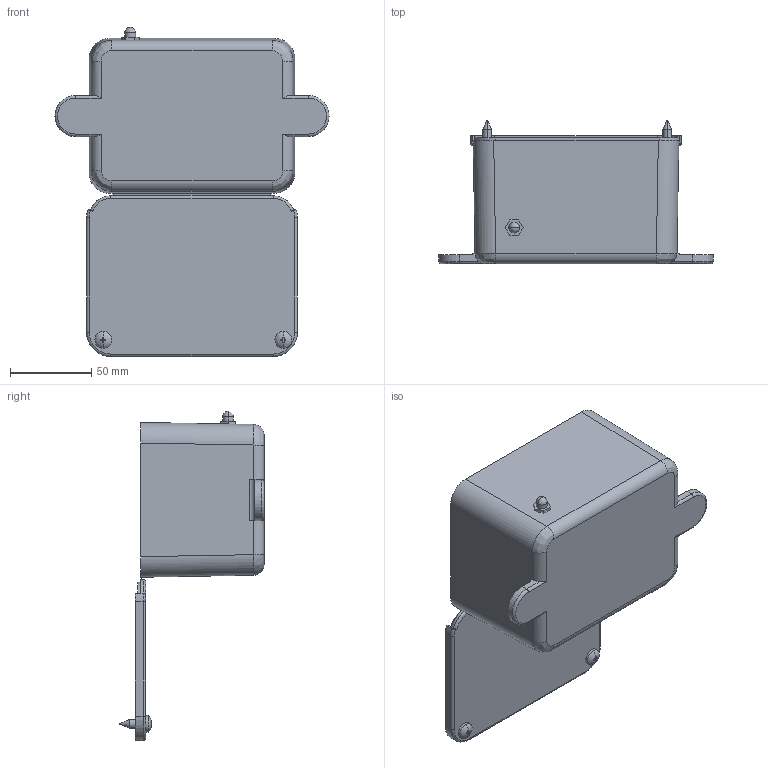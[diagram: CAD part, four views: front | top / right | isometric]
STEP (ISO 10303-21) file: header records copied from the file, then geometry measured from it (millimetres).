
FILE_DESCRIPTION((''),'2;1');
FILE_NAME('562872-EN-C_PRT','2019-12-31T21:44:53',('qusrh3'),(''),'CREO PARAMETRIC BY PTC INC, 2019030','CREO PARAMETRIC BY PTC INC, 2019030','');
FILE_SCHEMA(('CONFIG_CONTROL_DESIGN'));
Length unit declared in the file: inch
Products named in the file (1): 562872-EN-C_PRT
Bounding box: 169.16 x 88.9 x 203.1 mm (x, y, z)
Surface area: 110543.3 mm2 (no closed solid volume)
Topology: 0 solids, 8 shells, 118 faces, 341 edges, 217 vertices
Faces by surface type: cylinder 49, plane 43, sphere 10, torus 8, bspline 4, cone 4
Entity records: 4119 total; most frequent: CARTESIAN_POINT 976, DIRECTION 691, ORIENTED_EDGE 612, EDGE_CURVE 335, AXIS2_PLACEMENT_3D 258, VERTEX_POINT 217, VECTOR 175, LINE 175
